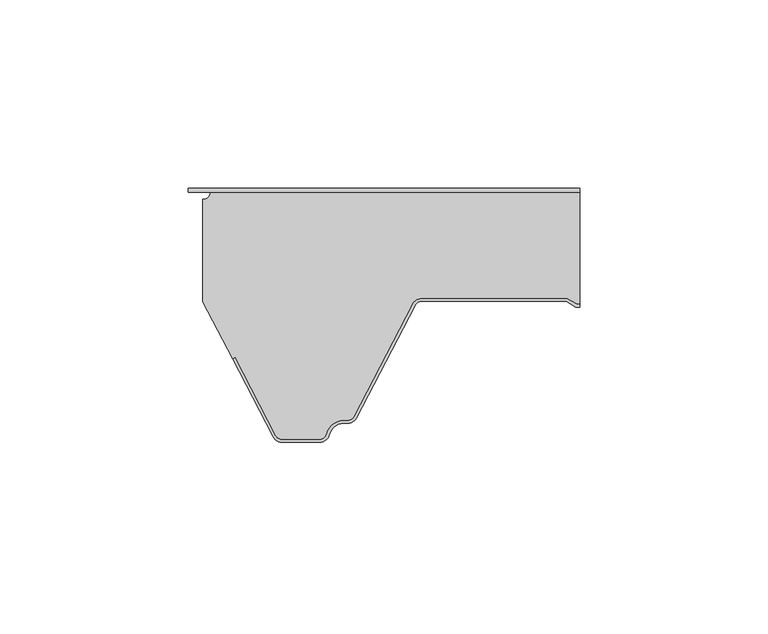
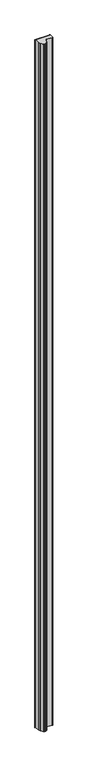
"""IFC4 building model written with IfcOpenShell, lengths in millimetres: plate geometry, Paneles-Sándwich-Madera_PALDR-H_Curtain-Panel : PALDR H 30/10."""

import ifcopenshell
import ifcopenshell.guid

model = None  # the IFC model being written
_history = None  # IfcOwnerHistory: only IFC2X3 demands one
_inside = {}  # id of a spatial element -> (the spatial element, [elements in it])
_under = {}  # id of a project, library or spatial element -> (it, [spatial elements below it])
_declared = {}  # id of a project -> (the project, [libraries it declares])
_typed = {}  # id of a type object -> (the type object, [elements of that type])
_made_of = {}  # id of a material, layer set ... -> (it, [elements and type objects made of it])


def new_model(schema):
    """Start an empty IFC model of exactly this schema.

    Asked for "IFC4X3", IfcOpenShell would pick the latest addendum, in which some entities
    have other attributes; the version numbers below select the first issue.
    IFC2X3 requires an IfcOwnerHistory on every rooted entity: one is made here for all.
    """
    global model, _history
    if schema == "IFC4X3":
        model = ifcopenshell.file(schema_version=(4, 3, 0, 0))
    else:
        model = ifcopenshell.file(schema=schema)
    _inside.clear()
    _under.clear()
    _declared.clear()
    _typed.clear()
    _made_of.clear()
    _history = None
    if model.schema == "IFC2X3":
        org = make("IfcOrganization", Name="unknown")
        user = make(
            "IfcPersonAndOrganization",
            ThePerson=make("IfcPerson", FamilyName="unknown"),
            TheOrganization=org,
        )
        app = make(
            "IfcApplication",
            ApplicationDeveloper=org,
            Version="unknown",
            ApplicationFullName="unknown",
            ApplicationIdentifier="unknown",
        )
        _history = make(
            "IfcOwnerHistory",
            OwningUser=user,
            OwningApplication=app,
            ChangeAction="ADDED",
            CreationDate=0,
        )
    return model


def make(cls, **values):
    """One entity of the class cls with the attributes given. An attribute that is None is left unset."""
    return model.create_entity(
        cls, **{name: value for name, value in values.items() if value is not None}
    )


def rooted(cls, **values):
    """An entity with a GlobalId (a new one), such as an element, a storey or a relation."""
    return make(cls, GlobalId=ifcopenshell.guid.new(), OwnerHistory=_history, **values)


def si_unit(unit_type, name, prefix=None):
    """IfcSIUnit, for example si_unit("LENGTHUNIT", "METRE", prefix="MILLI")."""
    return make("IfcSIUnit", UnitType=unit_type, Prefix=prefix, Name=name)


def assignment(units):
    """IfcUnitAssignment: the units of a project."""
    return None if units is None else make("IfcUnitAssignment", Units=units)


def point(xyz):
    """IfcCartesianPoint."""
    return None if xyz is None else make("IfcCartesianPoint", Coordinates=xyz)


def direction(xyz):
    """IfcDirection."""
    return None if xyz is None else make("IfcDirection", DirectionRatios=xyz)


def frame(location, z_axis=None, x_axis=None):
    """IfcAxis2Placement3D, a coordinate frame: its origin and axes. An axis left out is left unset."""
    return make(
        "IfcAxis2Placement3D",
        Location=point(location),
        Axis=direction(z_axis),
        RefDirection=direction(x_axis),
    )


def origin():
    """The frame at (0, 0, 0) with its axes left unset."""
    return frame((0.0, 0.0, 0.0))


def origin_with_axes():
    """The frame at (0, 0, 0) with the z axis (0, 0, 1) and the x axis (1, 0, 0) written out."""
    return frame((0.0, 0.0, 0.0), z_axis=(0.0, 0.0, 1.0), x_axis=(1.0, 0.0, 0.0))


def place(relative_to, where):
    """IfcLocalPlacement: puts the frame where relative to a parent placement (None: the world)."""
    return make(
        "IfcLocalPlacement", PlacementRelTo=relative_to, RelativePlacement=where
    )


def context(
    kind, dimensions, precision=None, world=None, true_north=None, identifier=None
):
    """IfcGeometricRepresentationContext, for example the 3D "Model" context."""
    return make(
        "IfcGeometricRepresentationContext",
        ContextIdentifier=identifier,
        ContextType=kind,
        CoordinateSpaceDimension=dimensions,
        Precision=precision,
        WorldCoordinateSystem=world,
        TrueNorth=true_north,
    )


def project(units=None, contexts=None):
    """IfcProject with its units and contexts."""
    return rooted(
        "IfcProject",
        Name="project",
        RepresentationContexts=contexts,
        UnitsInContext=assignment(units),
    )


def spatial(cls, under=None, at=None, **own):
    """A site, building, storey or space (cls), placed at a placement, below another one or the project."""
    s = rooted(cls, ObjectPlacement=at, **own)
    if under is not None:
        _under.setdefault(under.id(), (under, []))[1].append(s)
    return s


def polyline(points):
    """IfcPolyline through the points."""
    return make("IfcPolyline", Points=[point(p) for p in points])


def circle_curve(where, radius):
    """IfcCircle in the frame where."""
    return make("IfcCircle", Position=where, Radius=radius)


def outline(outer, holes=None, kind="AREA"):
    """IfcArbitraryClosedProfileDef: a profile drawn as a closed curve; with holes, ...WithVoids."""
    if holes is None:
        return make("IfcArbitraryClosedProfileDef", ProfileType=kind, OuterCurve=outer)
    return make(
        "IfcArbitraryProfileDefWithVoids",
        ProfileType=kind,
        OuterCurve=outer,
        InnerCurves=holes,
    )


def extrude(swept, where, along, depth):
    """IfcExtrudedAreaSolid: the profile swept, set in the frame where, extruded along a direction by depth."""
    return make(
        "IfcExtrudedAreaSolid",
        SweptArea=swept,
        Position=where,
        ExtrudedDirection=direction(along),
        Depth=depth,
    )


def shape(context_of_items, identifier, shape_type, items):
    """IfcShapeRepresentation: the items that make up one representation, for example the "Body"."""
    return make(
        "IfcShapeRepresentation",
        ContextOfItems=context_of_items,
        RepresentationIdentifier=identifier,
        RepresentationType=shape_type,
        Items=items,
    )


def source(mapping_origin, context_of_items, identifier, shape_type, items):
    """IfcRepresentationMap: a shape defined once, which mapped items show again and again."""
    return make(
        "IfcRepresentationMap",
        MappingOrigin=mapping_origin,
        MappedRepresentation=shape(context_of_items, identifier, shape_type, items),
    )


def transform(
    local_origin,
    x_axis=None,
    y_axis=None,
    z_axis=None,
    scale=None,
    scale2=None,
    scale3=None,
    uniform=True,
):
    """IfcCartesianTransformationOperator3D, or its non-uniform kind. x_axis, y_axis, z_axis: its Axis1, 2, 3."""
    if uniform:
        return make(
            "IfcCartesianTransformationOperator3D",
            Axis1=direction(x_axis),
            Axis2=direction(y_axis),
            LocalOrigin=point(local_origin),
            Scale=scale,
            Axis3=direction(z_axis),
        )
    return make(
        "IfcCartesianTransformationOperator3DnonUniform",
        Axis1=direction(x_axis),
        Axis2=direction(y_axis),
        LocalOrigin=point(local_origin),
        Scale=scale,
        Axis3=direction(z_axis),
        Scale2=scale2,
        Scale3=scale3,
    )


def mapped(mapping_source, mapping_target):
    """IfcMappedItem: shows the shape of a source again, moved by a transform."""
    return make(
        "IfcMappedItem", MappingSource=mapping_source, MappingTarget=mapping_target
    )


def made_of(thing, what):
    """Note that an element or type object is made of a material, layer set ...; save() writes the relation."""
    if what is not None:
        _made_of.setdefault(what.id(), (what, []))[1].append(thing)
    return thing


def element(
    cls,
    number,
    at=None,
    inside=None,
    cuts=None,
    type_object=None,
    material=None,
    context=None,
    identifier="Body",
    shape_type=None,
    held_by="IfcProductDefinitionShape",
    body=None,
    shapes=None,
    **own,
):
    """One element of the class cls, such as IfcWall. Its Tag is "e" and its number.

    at: its placement. inside: the storey or other place that contains it. cuts: it is an
    opening in that element (IfcRelVoidsElement). A single representation is given by context,
    identifier, shape_type and body (its items); several are given by shapes. held_by: the class
    of the entity that holds the representations. save() writes the other relations.
    """
    e = rooted(cls, Tag="e%d" % number, ObjectPlacement=at, **own)
    if body is not None:
        shapes = [shape(context, identifier, shape_type, body)]
    if shapes is not None:
        e.Representation = make(held_by, Representations=shapes)
    if inside is not None:
        _inside.setdefault(inside.id(), (inside, []))[1].append(e)
    if cuts is not None:
        rooted(
            "IfcRelVoidsElement", RelatingBuildingElement=cuts, RelatedOpeningElement=e
        )
    if type_object is not None:
        _typed.setdefault(type_object.id(), (type_object, []))[1].append(e)
    return made_of(e, material)


def aggregate(whole, parts):
    """IfcRelAggregates: a whole, such as a stair, and the parts it consists of."""
    return rooted("IfcRelAggregates", RelatingObject=whole, RelatedObjects=parts)


def save(model, path):
    """Write the relations noted so far, then the file.

    IfcRelAggregates (storeys below a building ...), IfcRelContainedInSpatialStructure (elements
    in a storey), IfcRelDefinesByType, IfcRelAssociatesMaterial and IfcRelDeclares: one each for
    every whole, place, type object, material and project.
    """
    for whole, parts in _under.values():
        aggregate(whole, parts)
    for where, things in _inside.values():
        rooted(
            "IfcRelContainedInSpatialStructure",
            RelatedElements=things,
            RelatingStructure=where,
        )
    for kind, things in _typed.values():
        rooted("IfcRelDefinesByType", RelatedObjects=things, RelatingType=kind)
    for what, things in _made_of.values():
        rooted("IfcRelAssociatesMaterial", RelatedObjects=things, RelatingMaterial=what)
    for by, libraries in _declared.values():
        rooted("IfcRelDeclares", RelatingContext=by, RelatedDefinitions=libraries)
    model.write(path)


def plane_surface(at):
    """IfcPlane: the flat surface through the origin of the frame at, square to its z axis."""
    return make("IfcPlane", Position=at)


def cylinder_surface(at, radius):
    """IfcCylindricalSurface: all points at the distance radius from the z axis of the frame at."""
    return make("IfcCylindricalSurface", Position=at, Radius=radius)


def revolved_surface(curve, axis_point, axis_direction):
    """IfcSurfaceOfRevolution: the curve turned about the line through axis_point along axis_direction."""
    return make(
        "IfcSurfaceOfRevolution",
        SweptCurve=make("IfcArbitraryOpenProfileDef", ProfileType="CURVE", Curve=curve),
        AxisPosition=make("IfcAxis1Placement", Location=point(axis_point), Axis=direction(axis_direction)),
    )


def advanced_brep(points, edges, surfaces, faces):
    """IfcAdvancedBrep: a solid bounded by faces that lie on surfaces and meet in shared edges.

    An edge is (start, end): straight between two places in points (the first is 0);
    or (start, end, curve); or (start, end, curve, False) where it runs against its curve.
    A face is (place in surfaces, loops), or (place, loops, False) where it looks against
    its surface's normal. A loop lists edges by number (the first is 1), with a minus sign
    where the edge is run from its end to its start. The first loop is the outer one.
    """
    corners = [point(p) for p in points]
    vertices = [make("IfcVertexPoint", VertexGeometry=c) for c in corners]
    made = []
    for start, end, *more in edges:
        made.append(
            make(
                "IfcEdgeCurve",
                EdgeStart=vertices[start],
                EdgeEnd=vertices[end],
                EdgeGeometry=more[0] if more else make("IfcPolyline", Points=[corners[start], corners[end]]),
                SameSense=more[1] if len(more) > 1 else True,
            )
        )
    hull = []
    for where, loops, *sense in faces:
        bounds = []
        for j, loop in enumerate(loops):
            ring = [make("IfcOrientedEdge", EdgeElement=made[abs(k) - 1], Orientation=k > 0) for k in loop]
            bounds.append(
                make(
                    "IfcFaceOuterBound" if j == 0 else "IfcFaceBound",
                    Bound=make("IfcEdgeLoop", EdgeList=ring),
                    Orientation=True,
                )
            )
        hull.append(make("IfcAdvancedFace", Bounds=bounds, FaceSurface=surfaces[where], SameSense=sense[0] if sense else True))
    return make("IfcAdvancedBrep", Outer=make("IfcClosedShell", CfsFaces=hull))


def plate_4da1124c(model_context):
    return source(origin(), model_context, "Body", "SolidModel", [
        extrude(outline(polyline([(-53.88, -1.0), (-53.88, 0.0), (50.0, 0.0), (50.0, -1.0), (-53.88, -1.0)])), origin_with_axes(), (0.0, 0.0, 1.0), 5000.0),
        advanced_brep(
        [(-30.6207387, -65.6314818, 0.0), (-41.4414179, -44.855778, 0.0), (-42.1509492, -45.2253256, 0.0), (-50.0, -30.1551481, 0.0), (-50.0, -2.95, 0.0), (-48.05, -1.0, 0.0), (50.0, -1.0, 0.0), (50.0, -30.7, 0.0), (49.2107961, -30.7, 0.0), (46.6127185, -29.2, 0.0), (8.090871, -29.2, 0.0), (5.6075115, -30.7065836, 0.0), (-9.9783733, -60.6314825, 0.0), (-11.574819, -61.6, 0.0), (-12.6272901, -61.6, 0.0), (-17.2841077, -65.2363636, 0.0), (-19.030414, -66.5999997, 0.0), (-29.024293, -66.5999997, 0.0), (-30.6207383, -65.6314813, 5000.0), (-29.024293, -66.5999997, 5000.0), (-19.030414, -66.5999997, 5000.0), (-17.2841077, -65.2363636, 5000.0), (-12.6272901, -61.6, 5000.0), (-11.574819, -61.6, 5000.0), (-9.9783737, -60.631482, 5000.0), (5.6075107, -30.7065835, 5000.0), (8.090871, -29.2, 5000.0), (46.6127185, -29.2, 5000.0), (49.2107961, -30.7, 5000.0), (50.0, -30.7, 5000.0), (50.0, -1.0, 5000.0), (-48.05, -1.0, 5000.0), (-50.0, -2.95, 5000.0), (-50.0, -30.1551481, 5000.0), (-42.1509492, -45.2253256, 5000.0), (-41.4414179, -44.855778, 5000.0)],
        [
            (0, 1),
            (1, 2),
            (2, 3),
            (3, 4),
            (4, 5, circle_curve(frame((-50.0, -1.0, 0.0), z_axis=(0.0, 0.0, 1.0), x_axis=(-1.0, 0.0, 0.0)), 1.95)),
            (5, 6),
            (6, 7),
            (7, 8),
            (8, 9),
            (9, 10),
            (10, 11, circle_curve(frame((8.090871, -32.0, 0.0), z_axis=(0.0, 0.0, 1.0), x_axis=(-1.0, 0.0, 0.0)), 2.8)),
            (11, 12),
            (12, 13, circle_curve(frame((-11.574819, -59.8, 0.0), z_axis=(0.0, 0.0, -1.0), x_axis=(-1.0, 0.0, 0.0)), 1.8)),
            (13, 14),
            (14, 15, circle_curve(frame((-12.6272901, -66.4, 0.0), z_axis=(0.0, 0.0, 1.0), x_axis=(-1.0, 0.0, 0.0)), 4.8)),
            (15, 16, circle_curve(frame((-19.030414, -64.8, 0.0), z_axis=(0.0, 0.0, -1.0), x_axis=(-1.0, 0.0, 0.0)), 1.7999997)),
            (16, 17),
            (17, 0, circle_curve(frame((-29.024293, -64.8, 0.0), z_axis=(0.0, 0.0, -1.0), x_axis=(-1.0, 0.0, 0.0)), 1.7999997)),
            (18, 19, circle_curve(frame((-29.024293, -64.8, 5000.0), z_axis=(0.0, 0.0, 1.0), x_axis=(-1.0, 0.0, 0.0)), 1.7999997)),
            (19, 20),
            (20, 21, circle_curve(frame((-19.030414, -64.8, 5000.0), z_axis=(0.0, 0.0, 1.0), x_axis=(-1.0, 0.0, 0.0)), 1.7999997)),
            (21, 22, circle_curve(frame((-12.6272901, -66.4, 5000.0), z_axis=(0.0, 0.0, -1.0), x_axis=(-1.0, 0.0, 0.0)), 4.8)),
            (22, 23),
            (23, 24, circle_curve(frame((-11.574819, -59.8, 5000.0), z_axis=(0.0, 0.0, 1.0), x_axis=(-1.0, 0.0, 0.0)), 1.8)),
            (24, 25),
            (25, 26, circle_curve(frame((8.090871, -32.0, 5000.0), z_axis=(0.0, 0.0, -1.0), x_axis=(-1.0, 0.0, 0.0)), 2.8)),
            (26, 27),
            (27, 28),
            (28, 29),
            (29, 30),
            (30, 31),
            (31, 32, circle_curve(frame((-50.0, -1.0, 5000.0), z_axis=(0.0, 0.0, -1.0), x_axis=(-1.0, 0.0, 0.0)), 1.95)),
            (32, 33),
            (33, 34),
            (34, 35),
            (35, 18),
            (0, 18),
            (35, 1),
            (34, 2),
            (33, 3),
            (32, 4),
            (5, 31),
            (30, 6),
            (28, 8),
            (7, 29),
            (27, 9),
            (26, 10),
            (25, 11),
            (24, 12),
            (23, 13),
            (22, 14),
            (21, 15),
            (20, 16),
            (19, 17),
        ],
        [
            plane_surface(frame((-50.0, 0.0, 0.0), z_axis=(0.0, 0.0, -1.0), x_axis=(0.0, 1.0, 0.0))),
            plane_surface(frame((-50.0, 0.0, 5000.0), z_axis=(0.0, 0.0, 1.0), x_axis=(0.0, 1.0, 0.0))),
            plane_surface(frame((-30.6207387, -65.6314818, 0.0), z_axis=(-0.8869140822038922, -0.4619344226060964, 0.0), x_axis=(0.0, 0.0, 1.0))),
            plane_surface(frame((-41.4414179, -44.855778, 0.0), z_axis=(0.4619344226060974, -0.8869140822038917, 0.0), x_axis=(0.0, 0.0, 1.0))),
            plane_surface(frame((-42.1509492, -45.2253256, 0.0), z_axis=(-0.8869140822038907, -0.4619344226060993, 0.0), x_axis=(0.0, 0.0, 1.0))),
            plane_surface(frame((-50.0, -30.1551481, 0.0), z_axis=(-1.0, 0.0, 0.0), x_axis=(0.0, 0.0, 1.0))),
            plane_surface(frame((-48.05, -1.0, 0.0), z_axis=(0.0, 1.0, 0.0), x_axis=(0.0, 0.0, 1.0))),
            plane_surface(frame((81.5859248, -30.7, 0.0), z_axis=(0.0, -1.0, 0.0), x_axis=(0.0, 0.0, 1.0))),
            plane_surface(frame((49.2107961, -30.7, 0.0), z_axis=(-0.4999997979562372, -0.866025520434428, 0.0), x_axis=(0.0, 0.0, 1.0))),
            plane_surface(frame((46.6127185, -29.2, 0.0), z_axis=(0.0, -1.0, 0.0), x_axis=(0.0, 0.0, 1.0))),
            revolved_surface(polyline([(5.290871, -32.0, 5000.0), (5.290871, -32.0, 0.0)]), (8.090871, -32.0, 0.0), (0.0, 0.0, 1.0)),
            plane_surface(frame((5.6075107, -30.7065835, 0.0), z_axis=(0.8869140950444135, -0.4619343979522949, 0.0), x_axis=(0.0, 0.0, 1.0))),
            cylinder_surface(frame((-11.574819, -59.8, 0.0), z_axis=(0.0, 0.0, -1.0), x_axis=(-1.0, 0.0, 0.0)), 1.8),
            plane_surface(frame((-11.574819, -61.6, 0.0), z_axis=(0.0, -1.0, 0.0), x_axis=(0.0, 0.0, 1.0))),
            revolved_surface(polyline([(-17.4272901, -66.4, 5000.0), (-17.4272901, -66.4, 0.0)]), (-12.6272901, -66.4, 0.0), (0.0, 0.0, 1.0)),
            cylinder_surface(frame((-19.030414, -64.8, 0.0), z_axis=(0.0, 0.0, -1.0), x_axis=(-1.0, 0.0, 0.0)), 1.7999997),
            plane_surface(frame((-19.030414, -66.5999997, 0.0), z_axis=(0.0, -1.0, 0.0), x_axis=(0.0, 0.0, 1.0))),
            cylinder_surface(frame((-29.024293, -64.8, 0.0), z_axis=(0.0, 0.0, -1.0), x_axis=(-1.0, 0.0, 0.0)), 1.7999997),
            revolved_surface(polyline([(-51.95, -1.0, 5000.0), (-51.95, -1.0, 0.0)]), (-50.0, -1.0, 0.0), (0.0, 0.0, 1.0)),
            plane_surface(frame((50.0, 0.0, 5000.0), z_axis=(1.0, 0.0, 0.0), x_axis=(0.0, 0.0, -1.0))),
        ],
        [
            (0, [[1, 2, 3, 4, 5, 6, 7, 8, 9, 10, 11, 12, 13, 14, 15, 16, 17, 18]]),
            (1, [[19, 20, 21, 22, 23, 24, 25, 26, 27, 28, 29, 30, 31, 32, 33, 34, 35, 36]]),
            (2, [[-1, 37, -36, 38]]),
            (3, [[-2, -38, -35, 39]]),
            (4, [[-3, -39, -34, 40]]),
            (5, [[-4, -40, -33, 41]]),
            (6, [[42, -31, 43, -6]]),
            (7, [[44, -8, 45, -29]]),
            (8, [[-9, -44, -28, 46]]),
            (9, [[-10, -46, -27, 47]]),
            (10, [[-11, -47, -26, 48]]),
            (11, [[-12, -48, -25, 49]]),
            (12, [[-13, -49, -24, 50]]),
            (13, [[-14, -50, -23, 51]]),
            (14, [[-15, -51, -22, 52]]),
            (15, [[-16, -52, -21, 53]]),
            (16, [[-17, -53, -20, 54]]),
            (17, [[-18, -54, -19, -37]]),
            (18, [[-5, -41, -32, -42]]),
            (19, [[-7, -43, -30, -45]]),
        ],
    ),
        advanced_brep(
        [(49.2107962, -30.7, 5000.0), (46.6127186, -29.2, 5000.0), (8.090871, -29.2, 5000.0), (5.6075116, -30.7065836, 5000.0), (-9.9783733, -60.6314825, 5000.0), (-11.574819, -61.6, 5000.0), (-12.62729, -61.6, 5000.0), (-17.2841076, -65.2363636, 5000.0), (-19.030414, -66.6, 5000.0), (-29.024293, -66.6, 5000.0), (-30.6207383, -65.631482, 5000.0), (-41.4404688, -44.8576004, 5000.0), (-42.15, -45.227148, 5000.0), (-31.33027, -66.00103, 5000.0), (-29.024293, -67.4, 5000.0), (-19.030414, -67.4, 5000.0), (-16.5079711, -65.4303031, 5000.0), (-12.62729, -62.4, 5000.0), (-11.574819, -62.4, 5000.0), (-9.2688424, -61.0010295, 5000.0), (6.317042, -31.076131, 5000.0), (8.090871, -30.0, 5000.0), (46.3983593, -30.0, 5000.0), (48.9964369, -31.5, 5000.0), (50.0, -31.5, 5000.0), (50.0, -30.7, 5000.0), (48.9964369, -31.5, 0.0), (46.3983593, -30.0, 0.0), (8.090871, -30.0, 0.0), (6.3170428, -31.0761312, 0.0), (-9.268842, -61.00103, 0.0), (-11.574819, -62.4, 0.0), (-12.62729, -62.4, 0.0), (-16.5079713, -65.430303, 0.0), (-19.030414, -67.4, 0.0), (-29.024293, -67.4, 0.0), (-31.3302696, -66.0010295, 0.0), (-42.15, -45.227148, 0.0), (-41.4404688, -44.8576004, 0.0), (-30.6207387, -65.6314825, 0.0), (-29.024293, -66.6, 0.0), (-19.030414, -66.6, 0.0), (-17.2841074, -65.2363637, 0.0), (-12.62729, -61.6, 0.0), (-11.574819, -61.6, 0.0), (-9.9783737, -60.631482, 0.0), (5.6075107, -30.7065835, 0.0), (8.090871, -29.2, 0.0), (46.6127186, -29.2, 0.0), (49.2107962, -30.7, 0.0), (50.0, -30.7, 0.0), (50.0, -31.5, 0.0)],
        [
            (0, 1),
            (1, 2),
            (2, 3, circle_curve(frame((8.090871, -32.0, 5000.0), z_axis=(0.0, 0.0, 1.0), x_axis=(1.0, 0.0, 0.0)), 2.8)),
            (3, 4),
            (4, 5, circle_curve(frame((-11.574819, -59.8, 5000.0), z_axis=(0.0, 0.0, -1.0), x_axis=(1.0, 0.0, 0.0)), 1.8)),
            (5, 6),
            (6, 7, circle_curve(frame((-12.62729, -66.4, 5000.0), z_axis=(0.0, 0.0, 1.0), x_axis=(1.0, 0.0, 0.0)), 4.8)),
            (7, 8, circle_curve(frame((-19.030414, -64.8, 5000.0), z_axis=(0.0, 0.0, -1.0), x_axis=(1.0, 0.0, 0.0)), 1.8)),
            (8, 9),
            (9, 10, circle_curve(frame((-29.024293, -64.8, 5000.0), z_axis=(0.0, 0.0, -1.0), x_axis=(1.0, 0.0, 0.0)), 1.8)),
            (10, 11),
            (11, 12),
            (12, 13),
            (13, 14, circle_curve(frame((-29.024293, -64.8, 5000.0), z_axis=(0.0, 0.0, 1.0), x_axis=(1.0, 0.0, 0.0)), 2.6)),
            (14, 15),
            (15, 16, circle_curve(frame((-19.030414, -64.8, 5000.0), z_axis=(0.0, 0.0, 1.0), x_axis=(1.0, 0.0, 0.0)), 2.6)),
            (16, 17, circle_curve(frame((-12.62729, -66.4, 5000.0), z_axis=(0.0, 0.0, -1.0), x_axis=(1.0, 0.0, 0.0)), 4.0)),
            (17, 18),
            (18, 19, circle_curve(frame((-11.574819, -59.8, 5000.0), z_axis=(0.0, 0.0, 1.0), x_axis=(1.0, 0.0, 0.0)), 2.6)),
            (19, 20),
            (20, 21, circle_curve(frame((8.090871, -32.0, 5000.0), z_axis=(0.0, 0.0, -1.0), x_axis=(1.0, 0.0, 0.0)), 2.0)),
            (21, 22),
            (22, 23),
            (23, 24),
            (24, 25),
            (25, 0),
            (26, 27),
            (27, 28),
            (28, 29, circle_curve(frame((8.090871, -32.0, 0.0), z_axis=(0.0, 0.0, 1.0), x_axis=(1.0, 0.0, 0.0)), 2.0)),
            (29, 30),
            (30, 31, circle_curve(frame((-11.574819, -59.8, 0.0), z_axis=(0.0, 0.0, -1.0), x_axis=(1.0, 0.0, 0.0)), 2.6)),
            (31, 32),
            (32, 33, circle_curve(frame((-12.62729, -66.4, 0.0), z_axis=(0.0, 0.0, 1.0), x_axis=(1.0, 0.0, 0.0)), 4.0)),
            (33, 34, circle_curve(frame((-19.030414, -64.8, 0.0), z_axis=(0.0, 0.0, -1.0), x_axis=(1.0, 0.0, 0.0)), 2.6)),
            (34, 35),
            (35, 36, circle_curve(frame((-29.024293, -64.8, 0.0), z_axis=(0.0, 0.0, -1.0), x_axis=(1.0, 0.0, 0.0)), 2.6)),
            (36, 37),
            (37, 38),
            (38, 39),
            (39, 40, circle_curve(frame((-29.024293, -64.8, 0.0), z_axis=(0.0, 0.0, 1.0), x_axis=(1.0, 0.0, 0.0)), 1.8)),
            (40, 41),
            (41, 42, circle_curve(frame((-19.030414, -64.8, 0.0), z_axis=(0.0, 0.0, 1.0), x_axis=(1.0, 0.0, 0.0)), 1.8)),
            (42, 43, circle_curve(frame((-12.62729, -66.4, 0.0), z_axis=(0.0, 0.0, -1.0), x_axis=(1.0, 0.0, 0.0)), 4.8)),
            (43, 44),
            (44, 45, circle_curve(frame((-11.574819, -59.8, 0.0), z_axis=(0.0, 0.0, 1.0), x_axis=(1.0, 0.0, 0.0)), 1.8)),
            (45, 46),
            (46, 47, circle_curve(frame((8.090871, -32.0, 0.0), z_axis=(0.0, 0.0, -1.0), x_axis=(1.0, 0.0, 0.0)), 2.8)),
            (47, 48),
            (48, 49),
            (49, 50),
            (50, 51),
            (51, 26),
            (49, 0),
            (25, 50),
            (48, 1),
            (47, 2),
            (46, 3),
            (45, 4),
            (44, 5),
            (43, 6),
            (42, 7),
            (41, 8),
            (40, 9),
            (39, 10),
            (38, 11),
            (37, 12),
            (36, 13),
            (35, 14),
            (34, 15),
            (33, 16),
            (32, 17),
            (31, 18),
            (30, 19),
            (29, 20),
            (28, 21),
            (27, 22),
            (26, 23),
            (51, 24),
        ],
        [
            plane_surface(frame((-50.0, -30.0, 5000.0), z_axis=(0.0, 0.0, 1.0), x_axis=(0.0, 1.0, 0.0))),
            plane_surface(frame((-50.0, -30.0, 0.0), z_axis=(0.0, 0.0, -1.0), x_axis=(0.0, 1.0, 0.0))),
            plane_surface(frame((81.5859248, -30.7, 5000.0), z_axis=(0.0, 1.0, 0.0), x_axis=(0.0, 0.0, -1.0))),
            plane_surface(frame((49.2107962, -30.7, 5000.0), z_axis=(0.4999997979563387, 0.8660255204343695, 0.0), x_axis=(0.0, 0.0, -1.0))),
            plane_surface(frame((46.6127186, -29.2, 5000.0), z_axis=(0.0, 1.0, 0.0), x_axis=(0.0, 0.0, -1.0))),
            cylinder_surface(frame((8.090871, -32.0, 5000.0), z_axis=(0.0, 0.0, 1.0), x_axis=(1.0, 0.0, 0.0)), 2.8),
            plane_surface(frame((5.6075107, -30.7065835, 5000.0), z_axis=(-0.8869140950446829, 0.4619343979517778, 0.0), x_axis=(0.0, 0.0, -1.0))),
            revolved_surface(polyline([(-9.774818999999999, -59.8, 0.0), (-9.774818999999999, -59.8, 5000.0)]), (-11.574819, -59.8, 5000.0), (0.0, 0.0, -1.0)),
            plane_surface(frame((-11.574819, -61.6, 5000.0), z_axis=(0.0, 1.0, 0.0), x_axis=(0.0, 0.0, -1.0))),
            cylinder_surface(frame((-12.62729, -66.4, 5000.0), z_axis=(0.0, 0.0, 1.0), x_axis=(1.0, 0.0, 0.0)), 4.8),
            revolved_surface(polyline([(-17.230414, -64.8, 0.0), (-17.230414, -64.8, 5000.0)]), (-19.030414, -64.8, 5000.0), (0.0, 0.0, -1.0)),
            plane_surface(frame((-19.030414, -66.6, 5000.0), z_axis=(0.0, 1.0, 0.0), x_axis=(0.0, 0.0, -1.0))),
            revolved_surface(polyline([(-27.224293, -64.8, 0.0), (-27.224293, -64.8, 5000.0)]), (-29.024293, -64.8, 5000.0), (0.0, 0.0, -1.0)),
            plane_surface(frame((-30.6207387, -65.6314825, 5000.0), z_axis=(0.8869140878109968, 0.46193441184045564, 0.0), x_axis=(0.0, 0.0, -1.0))),
            plane_surface(frame((-41.4404688, -44.8576004, 5000.0), z_axis=(-0.46193450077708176, 0.8869140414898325, 0.0), x_axis=(0.0, 0.0, -1.0))),
            plane_surface(frame((-42.15, -45.227148, 5000.0), z_axis=(-0.8869140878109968, -0.46193441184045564, 0.0), x_axis=(0.0, 0.0, -1.0))),
            cylinder_surface(frame((-29.024293, -64.8, 5000.0), z_axis=(0.0, 0.0, 1.0), x_axis=(1.0, 0.0, 0.0)), 2.6),
            plane_surface(frame((-29.024293, -67.4, 5000.0), z_axis=(0.0, -1.0, 0.0), x_axis=(0.0, 0.0, -1.0))),
            cylinder_surface(frame((-19.030414, -64.8, 5000.0), z_axis=(0.0, 0.0, 1.0), x_axis=(1.0, 0.0, 0.0)), 2.6),
            revolved_surface(polyline([(-8.62729, -66.4, 0.0), (-8.62729, -66.4, 5000.0)]), (-12.62729, -66.4, 5000.0), (0.0, 0.0, -1.0)),
            plane_surface(frame((-12.62729, -62.4, 5000.0), z_axis=(0.0, -1.0, 0.0), x_axis=(0.0, 0.0, -1.0))),
            cylinder_surface(frame((-11.574819, -59.8, 5000.0), z_axis=(0.0, 0.0, 1.0), x_axis=(1.0, 0.0, 0.0)), 2.6),
            plane_surface(frame((-9.268842, -61.00103, 5000.0), z_axis=(0.8869140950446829, -0.4619343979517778, 0.0), x_axis=(0.0, 0.0, -1.0))),
            revolved_surface(polyline([(10.090871, -32.0, 0.0), (10.090871, -32.0, 5000.0)]), (8.090871, -32.0, 5000.0), (0.0, 0.0, -1.0)),
            plane_surface(frame((8.090871, -30.0, 5000.0), z_axis=(0.0, -1.0, 0.0), x_axis=(0.0, 0.0, -1.0))),
            plane_surface(frame((46.3983593, -30.0, 5000.0), z_axis=(-0.4999997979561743, -0.8660255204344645, 0.0), x_axis=(0.0, 0.0, -1.0))),
            plane_surface(frame((48.9964369, -31.5, 5000.0), z_axis=(0.0, -1.0, 0.0), x_axis=(0.0, 0.0, -1.0))),
            plane_surface(frame((50.0, 0.0, 5000.0), z_axis=(1.0, 0.0, 0.0), x_axis=(0.0, 0.0, -1.0))),
        ],
        [
            (0, [[1, 2, 3, 4, 5, 6, 7, 8, 9, 10, 11, 12, 13, 14, 15, 16, 17, 18, 19, 20, 21, 22, 23, 24, 25, 26]]),
            (1, [[27, 28, 29, 30, 31, 32, 33, 34, 35, 36, 37, 38, 39, 40, 41, 42, 43, 44, 45, 46, 47, 48, 49, 50, 51, 52]]),
            (2, [[53, -26, 54, -50]]),
            (3, [[-1, -53, -49, 55]]),
            (4, [[-2, -55, -48, 56]]),
            (5, [[-3, -56, -47, 57]]),
            (6, [[-4, -57, -46, 58]]),
            (7, [[-5, -58, -45, 59]]),
            (8, [[-6, -59, -44, 60]]),
            (9, [[-7, -60, -43, 61]]),
            (10, [[-8, -61, -42, 62]]),
            (11, [[-9, -62, -41, 63]]),
            (12, [[-10, -63, -40, 64]]),
            (13, [[-11, -64, -39, 65]]),
            (14, [[-12, -65, -38, 66]]),
            (15, [[-13, -66, -37, 67]]),
            (16, [[-14, -67, -36, 68]]),
            (17, [[-15, -68, -35, 69]]),
            (18, [[-16, -69, -34, 70]]),
            (19, [[-17, -70, -33, 71]]),
            (20, [[-18, -71, -32, 72]]),
            (21, [[-19, -72, -31, 73]]),
            (22, [[-20, -73, -30, 74]]),
            (23, [[-21, -74, -29, 75]]),
            (24, [[-22, -75, -28, 76]]),
            (25, [[-23, -76, -27, 77]]),
            (26, [[-77, -52, 78, -24]]),
            (27, [[-25, -78, -51, -54]]),
        ],
    ),
    ])


if __name__ == "__main__":
    model = new_model("IFC4")
    model_context = context("Model", 3, world=origin())
    ifc_project = project(units=[si_unit("LENGTHUNIT", "METRE", prefix="MILLI")], contexts=[model_context])
    site = spatial("IfcSite", under=ifc_project)
    building = spatial("IfcBuilding", under=site)
    placement = place(None, origin())
    plate_shape = plate_4da1124c(model_context)
    element("IfcPlate", 1, ObjectType="Paneles-Sándwich-Madera_PALDR-H_Curtain-Panel : PALDR H 30/10", at=placement, inside=building, context=model_context, shape_type="MappedRepresentation", body=[
        mapped(plate_shape, transform((0.0, 0.0, 0.0), x_axis=(1.0, 0.0, 0.0), y_axis=(0.0, 1.0, 0.0), z_axis=(0.0, 0.0, 1.0))),
    ])
    save(model, "model.ifc")
